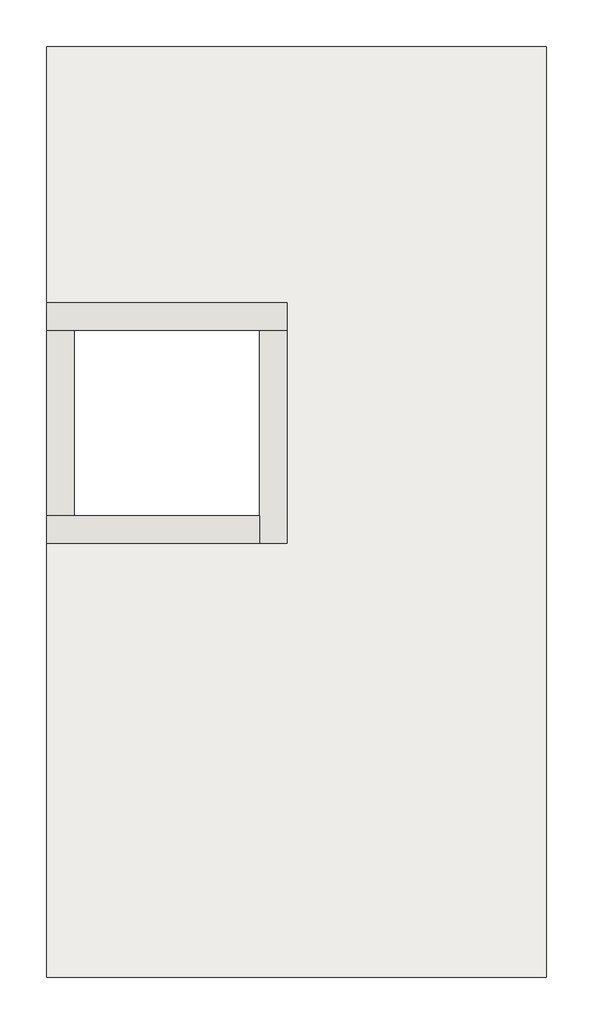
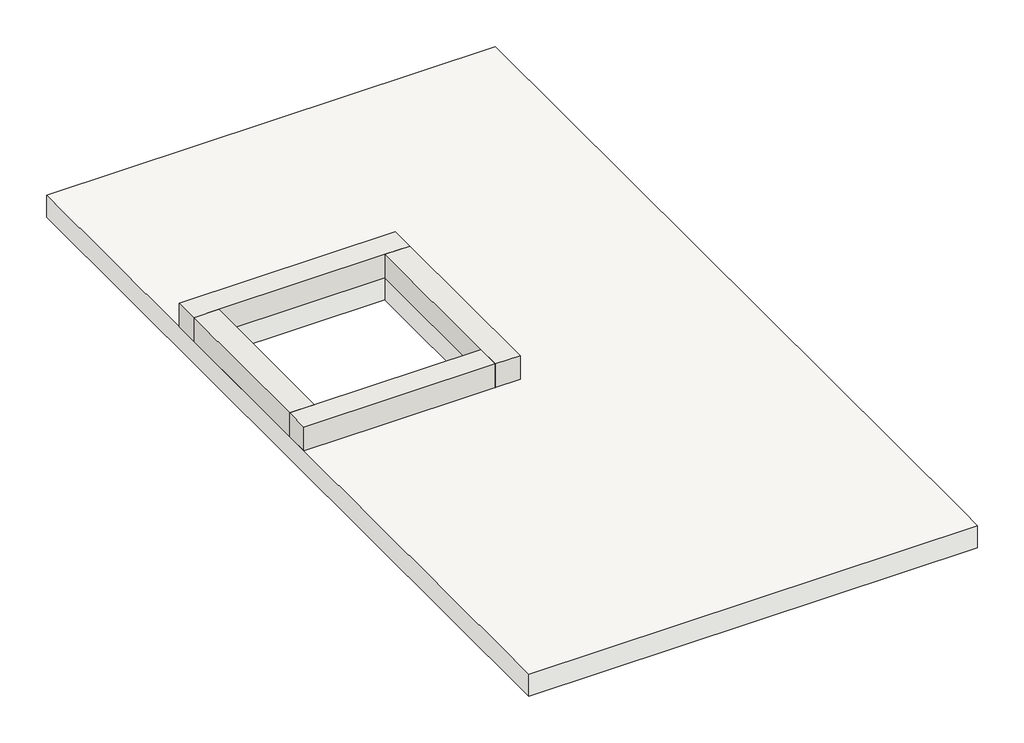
# One storey: 4 walls, 1 slab.
"""IFC4 building model written with IfcOpenShell, lengths in millimetres."""

from ifc_helpers import new_model, si_unit, frame, origin, place, context, project, spatial, polyline, outline, extrude, faceted_brep, element, save

model = new_model("IFC4")

# Units and contexts
model_context = context("Model", 3, world=origin())
ifc_project = project(units=[si_unit("LENGTHUNIT", "METRE", prefix="MILLI")], contexts=[model_context])

# Site, building, storey
site = spatial("IfcSite", under=ifc_project)
building = spatial("IfcBuilding", under=site)
storey = spatial("IfcBuildingStorey", under=building, Name="4ème niveau", Elevation=5270.0)

# Slab
placement = place(None, origin())
element("IfcSlab", 1, ObjectType="Générique  140 mm", at=placement, inside=storey, context=model_context, shape_type="Brep", body=[
    faceted_brep([(1669.9771325, -908.2888028, 5130.0), (1669.9771325, -5933.2888028, 5130.0), (-1030.0228675, -5933.2888028, 5130.0), (-1030.0228675, -908.2888028, 5130.0), (119.9771325, -2440.7888028, 5130.0), (-880.0228675, -2440.7888028, 5130.0), (-880.0228675, -3440.7888028, 5130.0), (119.9771325, -3440.7888028, 5130.0), (1669.9771325, -908.2888028, 5270.0), (-1030.0228675, -908.2888028, 5270.0), (-1030.0228675, -2290.7888028, 5270.0), (-1030.0228675, -2440.7888028, 5270.0), (-1030.0228675, -3440.7888028, 5270.0), (-1030.0228675, -3590.7888028, 5270.0), (-1030.0228675, -5783.2888028, 5270.0), (-1030.0228675, -5933.2888028, 5270.0), (1669.9771325, -5933.2888028, 5270.0), (1669.9771325, -5783.2888028, 5270.0), (119.9771325, -2440.7888028, 5270.0), (119.9771325, -3440.7888028, 5270.0), (-880.0228675, -3440.7888028, 5270.0), (-880.0228675, -2440.7888028, 5270.0)], [[[0, 1, 2, 3], [4, 5, 6, 7]], [[8, 9, 10, 11, 12, 13, 14, 15, 16, 17], [18, 19, 20, 21]], [[1, 0, 8, 17, 16]], [[2, 1, 16, 15]], [[3, 2, 15, 14, 13, 12, 11, 10, 9]], [[0, 3, 9, 8]], [[5, 4, 18, 21]], [[6, 5, 21, 20]], [[7, 6, 20, 19]], [[4, 7, 19, 18]]]),
])

# Walls
element("IfcWall", 2, ObjectType="Générique - 150 mm", at=placement, inside=storey, context=model_context, shape_type="Brep", body=[
    faceted_brep([(-1030.0228675, -2440.7888028, 5270.0), (-880.0228675, -2440.7888028, 5270.0), (119.9771325, -2440.7888028, 5270.0), (269.9771325, -2440.7888028, 5270.0), (269.9771325, -2440.7888028, 5420.0), (119.9771325, -2440.7888028, 5420.0), (-880.0228675, -2440.7888028, 5420.0), (-1030.0228675, -2440.7888028, 5420.0), (-1030.0228675, -2290.7888028, 5270.0), (-1030.0228675, -2290.7888028, 5420.0), (269.9771325, -2290.7888028, 5420.0), (269.9771325, -2290.7888028, 5270.0)], [[[0, 1, 2, 3, 4, 5, 6, 7]], [[8, 9, 10, 11]], [[3, 2, 1, 0, 8, 11]], [[7, 6, 5, 4, 10, 9]], [[0, 7, 9, 8]], [[4, 3, 11, 10]]]),
])
element("IfcWall", 3, ObjectType="Générique - 150 mm", at=placement, inside=storey, context=model_context, shape_type="Brep", body=[
    faceted_brep([(119.9771325, -2440.7888028, 5270.0), (119.9771325, -3440.7888028, 5270.0), (119.9771325, -3590.7888028, 5270.0), (119.9771325, -3590.7888028, 5420.0), (119.9771325, -3440.7888028, 5420.0), (119.9771325, -2440.7888028, 5420.0), (269.9771325, -2440.7888028, 5270.0), (269.9771325, -2440.7888028, 5420.0), (269.9771325, -3590.7888028, 5420.0), (269.9771325, -3590.7888028, 5270.0)], [[[0, 1, 2, 3, 4, 5]], [[6, 7, 8, 9]], [[2, 1, 0, 6, 9]], [[5, 4, 3, 8, 7]], [[0, 5, 7, 6]], [[3, 2, 9, 8]]]),
])
element("IfcWall", 4, ObjectType="Générique - 150 mm", at=placement, inside=storey, context=model_context, shape_type="Brep", body=[
    faceted_brep([(119.9771325, -3440.7888028, 5270.0), (-880.0228675, -3440.7888028, 5270.0), (-1030.0228675, -3440.7888028, 5270.0), (-1030.0228675, -3440.7888028, 5420.0), (-880.0228675, -3440.7888028, 5420.0), (119.9771325, -3440.7888028, 5420.0), (119.9771325, -3590.7888028, 5270.0), (119.9771325, -3590.7888028, 5420.0), (-1030.0228675, -3590.7888028, 5420.0), (-1030.0228675, -3590.7888028, 5270.0)], [[[0, 1, 2, 3, 4, 5]], [[6, 7, 8, 9]], [[2, 1, 0, 6, 9]], [[5, 4, 3, 8, 7]], [[0, 5, 7, 6]], [[3, 2, 9, 8]]]),
])
element("IfcWall", 5, ObjectType="Générique - 150 mm", at=placement, inside=storey, context=model_context, shape_type="SweptSolid", body=[
    extrude(outline(polyline([(-880.0228675, -2440.7888028), (-880.0228675, -3440.7888028), (-1030.0228675, -3440.7888028), (-1030.0228675, -2440.7888028), (-880.0228675, -2440.7888028)])), frame((0.0, 0.0, 5270.0), z_axis=(0.0, 0.0, 1.0), x_axis=(1.0, 0.0, 0.0)), (0.0, 0.0, 1.0), 150.0),
])

save(model, "model.ifc")
